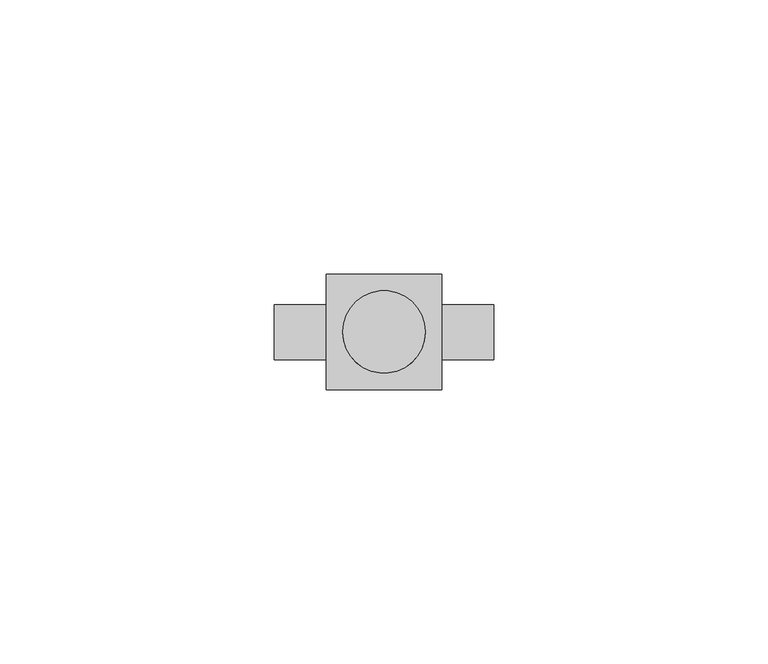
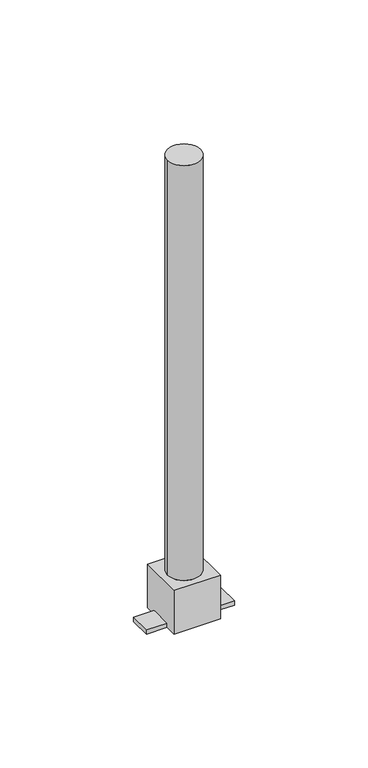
"""IFC4 building model written with IfcOpenShell, lengths in millimetres: pipe fitting geometry, KAN-therm Push kolano mosiężne z rurą Cu15 ze wspornikiem L=210 : KAN-therm Push kolano mosiężne z rurą Cu15 ze wspornikiem L=210."""

from ifc_helpers import new_model, si_unit, frame, origin, origin_with_axes, place, context, project, spatial, circle_curve, source, transform, mapped, element, save
from ifc_brep_helpers import plane_surface, cylinder_surface, advanced_brep


def pipe_fitting_e9b668a0(model_context):
    return source(origin(), model_context, "Body", "AdvancedBrep", [
        advanced_brep(
        [(10.5, -10.5, 10.5), (10.5, 10.5, 10.5), (-10.5, 10.5, 10.5), (-10.5, -10.5, 10.5), (7.5, 0.0, 10.5), (-7.5, 0.0, 10.5), (10.5, -10.5, -10.5), (-10.5, -10.5, -10.5), (-10.5, -5.0, -10.5), (-20.0, -5.0, -10.5), (-20.0, 5.0, -10.5), (-10.5, 5.0, -10.5), (-10.5, 10.5, -10.5), (10.5, 10.5, -10.5), (10.5, 5.0, -10.5), (20.0, 5.0, -10.5), (20.0, -5.0, -10.5), (10.5, -5.0, -10.5), (-7.5, 0.0, 210.0), (7.5, 0.0, 210.0), (10.5, -5.0, -8.5), (10.5, 5.0, -8.5), (-10.5, 5.0, -8.5), (-10.5, -5.0, -8.5), (20.0, -5.0, -8.5), (20.0, 5.0, -8.5), (-20.0, 5.0, -8.5), (-20.0, -5.0, -8.5)],
        [
            (0, 1),
            (1, 2),
            (2, 3),
            (3, 0),
            (4, 5, circle_curve(frame((0.0, 0.0, 10.5), z_axis=(0.0, 0.0, -1.0), x_axis=(1.0, 0.0, 0.0)), 7.5)),
            (5, 4, circle_curve(frame((0.0, 0.0, 10.5), z_axis=(0.0, 0.0, -1.0), x_axis=(1.0, 0.0, 0.0)), 7.5)),
            (6, 7),
            (7, 8),
            (8, 9),
            (9, 10),
            (10, 11),
            (11, 12),
            (12, 13),
            (13, 14),
            (14, 15),
            (15, 16),
            (16, 17),
            (17, 6),
            (18, 19, circle_curve(frame((0.0, 0.0, 210.0), z_axis=(0.0, 0.0, 1.0), x_axis=(1.0, 0.0, 0.0)), 7.5)),
            (19, 18, circle_curve(frame((0.0, 0.0, 210.0), z_axis=(0.0, 0.0, 1.0), x_axis=(1.0, 0.0, 0.0)), 7.5)),
            (18, 5),
            (4, 19),
            (0, 6),
            (17, 20),
            (20, 21),
            (21, 14),
            (13, 1),
            (12, 2),
            (11, 22),
            (22, 23),
            (23, 8),
            (7, 3),
            (24, 25),
            (25, 21),
            (20, 24),
            (26, 27),
            (27, 23),
            (22, 26),
            (27, 9),
            (16, 24),
            (15, 25),
            (10, 26),
        ],
        [
            plane_surface(frame((10.5, 10.5, 10.5), z_axis=(0.0, 0.0, 1.0), x_axis=(0.0, 1.0, 0.0))),
            plane_surface(frame((10.5, 10.5, -10.5), z_axis=(0.0, 0.0, -1.0), x_axis=(0.0, -1.0, 0.0))),
            plane_surface(frame((7.5, 0.0, 210.0), z_axis=(0.0, 0.0, 1.0), x_axis=(0.0, 1.0, 0.0))),
            cylinder_surface(origin_with_axes(), 7.5),
            plane_surface(frame((10.5, -10.5, 10.5), z_axis=(1.0, 0.0, 0.0), x_axis=(0.0, 0.0, -1.0))),
            plane_surface(frame((10.5, 10.5, 10.5), z_axis=(0.0, 1.0, 0.0), x_axis=(0.0, 0.0, -1.0))),
            plane_surface(frame((-10.5, 10.5, 10.5), z_axis=(-1.0, 0.0, 0.0), x_axis=(0.0, 0.0, -1.0))),
            plane_surface(frame((-10.5, -10.5, 10.5), z_axis=(0.0, -1.0, 0.0), x_axis=(0.0, 0.0, -1.0))),
            plane_surface(frame((2000.0, -5.0, -8.5), z_axis=(0.0, 0.0, 1.0), x_axis=(1.0, 0.0, 0.0))),
            plane_surface(frame((-20.0, -5.0, -8.5), z_axis=(0.0, -1.0, 0.0), x_axis=(0.0, 0.0, -1.0))),
            plane_surface(frame((20.0, -5.0, -8.5), z_axis=(1.0, 0.0, 0.0), x_axis=(0.0, 0.0, -1.0))),
            plane_surface(frame((20.0, 5.0, -8.5), z_axis=(0.0, 1.0, 0.0), x_axis=(0.0, 0.0, -1.0))),
            plane_surface(frame((-20.0, 5.0, -8.5), z_axis=(-1.0, 0.0, 0.0), x_axis=(0.0, 0.0, -1.0))),
        ],
        [
            (0, [[1, 2, 3, 4], [5, 6]]),
            (1, [[7, 8, 9, 10, 11, 12, 13, 14, 15, 16, 17, 18]]),
            (2, [[19, 20]]),
            (3, [[-19, 21, -5, 22]]),
            (3, [[-20, -22, -6, -21]]),
            (4, [[-1, 23, -18, 24, 25, 26, -14, 27]]),
            (5, [[-2, -27, -13, 28]]),
            (6, [[-3, -28, -12, 29, 30, 31, -8, 32]]),
            (7, [[-4, -32, -7, -23]]),
            (8, [[33, 34, -25, 35]]),
            (8, [[36, 37, -30, 38]]),
            (9, [[39, -9, -31, -37]]),
            (9, [[40, -35, -24, -17]]),
            (10, [[-33, -40, -16, 41]]),
            (11, [[-41, -15, -26, -34]]),
            (11, [[42, -38, -29, -11]]),
            (12, [[-36, -42, -10, -39]]),
        ],
    ),
    ])


if __name__ == "__main__":
    model = new_model("IFC4")
    model_context = context("Model", 3, world=origin())
    ifc_project = project(units=[si_unit("LENGTHUNIT", "METRE", prefix="MILLI")], contexts=[model_context])
    site = spatial("IfcSite", under=ifc_project)
    building = spatial("IfcBuilding", under=site)
    placement = place(None, origin())
    pipe_fitting_shape = pipe_fitting_e9b668a0(model_context)
    element("IfcPipeFitting", 1, ObjectType="KAN-therm Push kolano mosiężne z rurą Cu15 ze wspornikiem L=210 : KAN-therm Push kolano mosiężne z rurą Cu15 ze wspornikiem L=210", at=placement, inside=building, context=model_context, shape_type="MappedRepresentation", body=[
        mapped(pipe_fitting_shape, transform((0.0, 0.0, 0.0), x_axis=(1.0, 0.0, 0.0), y_axis=(0.0, 1.0, 0.0), z_axis=(0.0, 0.0, 1.0))),
    ])
    save(model, "model.ifc")
